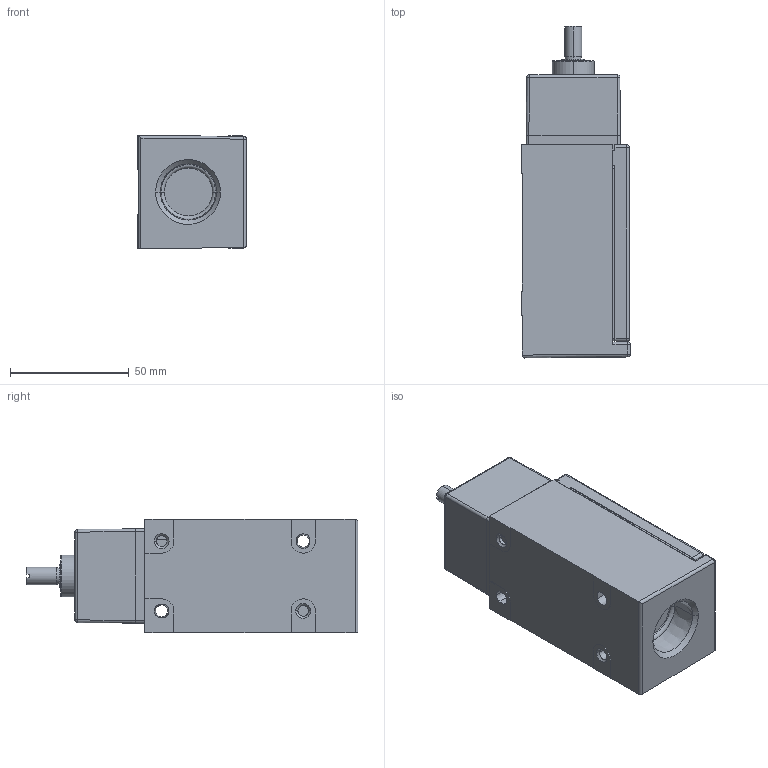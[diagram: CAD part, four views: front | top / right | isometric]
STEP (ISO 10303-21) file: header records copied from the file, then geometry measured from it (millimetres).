
FILE_DESCRIPTION((''),'2;1');
FILE_NAME('LSB4L_SW','2012-12-06T',('E522935'),(''),'PRO/ENGINEER BY PARAMETRIC TECHNOLOGY CORPORATION, 2009460','PRO/ENGINEER BY PARAMETRIC TECHNOLOGY CORPORATION, 2009460','');
FILE_SCHEMA(('CONFIG_CONTROL_DESIGN'));
Length unit declared in the file: inch
Products named in the file (1): LSB4L_SW
Bounding box: 45.72 x 139.56 x 47.62 mm (x, y, z)
Volume: 226444.5 mm3; surface area: 31098.6 mm2
Topology: 1 solids, 2 shells, 455 faces, 1115 edges, 683 vertices
Faces by surface type: plane 249, cylinder 151, cone 26, sphere 23, torus 4, bspline 2
Entity records: 14275 total; most frequent: CARTESIAN_POINT 3354, DIRECTION 2357, ORIENTED_EDGE 2230, EDGE_CURVE 1115, AXIS2_PLACEMENT_3D 862, VERTEX_POINT 683, VECTOR 633, LINE 633
